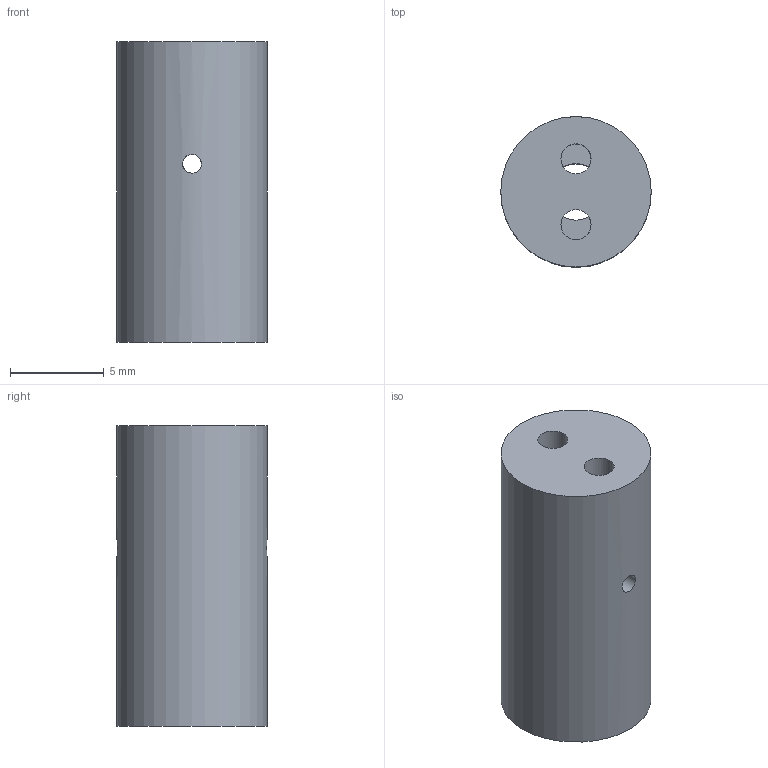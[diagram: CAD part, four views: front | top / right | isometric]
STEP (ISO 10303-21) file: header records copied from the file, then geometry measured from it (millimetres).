
FILE_DESCRIPTION(('FreeCAD Model'),'2;1');
FILE_NAME('Open CASCADE Shape Model','2025-06-20T17:14:17',(''),(''), 'Open CASCADE STEP processor 7.6','FreeCAD','Unknown');
FILE_SCHEMA(('CONFIG_CONTROL_DESIGN','SHAPE_APPEARANCE_LAYER_MIM'));
Length unit declared in the file: millimetre
Products named in the file (1): SingleCCDSpacerCylindriccal
Bounding box: 8 x 8 x 16 mm (x, y, z)
Volume: 702.4 mm3; surface area: 667.2 mm2
Topology: 1 solids, 1 shells, 11 faces, 26 edges, 16 vertices
Faces by surface type: cylinder 6, plane 5
Full cylindrical faces by diameter (mm): 1 x2, 1.6 x2, 3 x1, 8 x1
Entity records: 564 total; most frequent: CARTESIAN_POINT 234, DIRECTION 62, ORIENTED_EDGE 52, AXIS2_PLACEMENT_3D 28, EDGE_CURVE 26, FACE_BOUND 18, EDGE_LOOP 18, VERTEX_POINT 16
